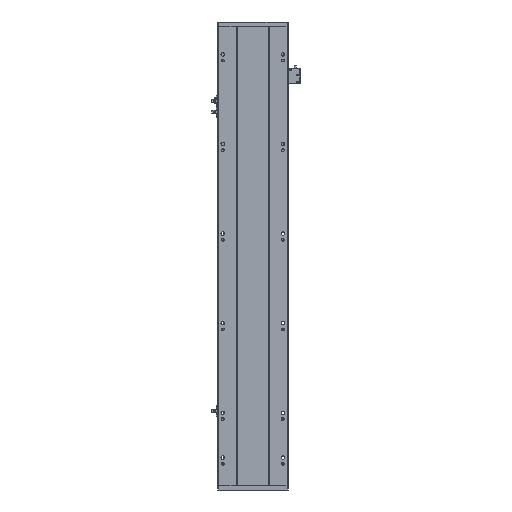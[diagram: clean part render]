
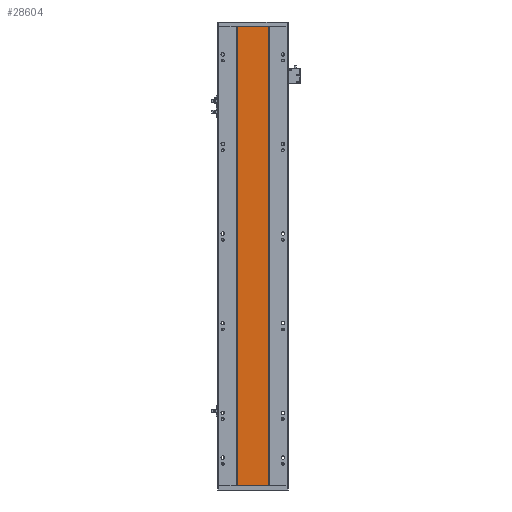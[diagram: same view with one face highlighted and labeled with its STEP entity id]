
A CAD part, front view. The second image highlights one B-rep face of the part: STEP entity #28604.
In plain terms, the highlighted planar face has unit normal (0, -1, 0).
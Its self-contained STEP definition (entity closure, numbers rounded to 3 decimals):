
#297 = EDGE_CURVE ( 'NONE', #13213, #25882, #15449, .T. ) ;
#402 = LINE ( 'NONE', #18996, #9841 ) ;
#708 = EDGE_CURVE ( 'NONE', #13213, #7889, #27706, .T. ) ;
#2570 = DIRECTION ( 'NONE',  ( 1., 0., 0. ) ) ;
#3968 = DIRECTION ( 'NONE',  ( 1., 0., 0. ) ) ;
#4006 = DIRECTION ( 'NONE',  ( 0., 0., -1. ) ) ;
#5356 = EDGE_CURVE ( 'NONE', #7889, #19510, #402, .T. ) ;
#5691 = CARTESIAN_POINT ( 'NONE',  ( 205.288, 16.9, 1108. ) ) ;
#6408 = ORIENTED_EDGE ( 'NONE', *, *, #15355, .T. ) ;
#7889 = VERTEX_POINT ( 'NONE', #5691 ) ;
#9047 = ORIENTED_EDGE ( 'NONE', *, *, #708, .F. ) ;
#9051 = FACE_OUTER_BOUND ( 'NONE', #16046, .T. ) ;
#9174 = VECTOR ( 'NONE', #3968, 1000. ) ;
#9841 = VECTOR ( 'NONE', #16455, 1000. ) ;
#11489 = VECTOR ( 'NONE', #2570, 1000. ) ;
#12784 = CARTESIAN_POINT ( 'NONE',  ( 205.288, 16.9, 0. ) ) ;
#13092 = VECTOR ( 'NONE', #4006, 1000. ) ;
#13213 = VERTEX_POINT ( 'NONE', #15219 ) ;
#13736 = PLANE ( 'NONE',  #20387 ) ;
#15219 = CARTESIAN_POINT ( 'NONE',  ( 129.288, 16.9, 1108. ) ) ;
#15355 = EDGE_CURVE ( 'NONE', #25882, #19510, #21321, .T. ) ;
#15449 = LINE ( 'NONE', #31631, #13092 ) ;
#15516 = ORIENTED_EDGE ( 'NONE', *, *, #297, .T. ) ;
#16046 = EDGE_LOOP ( 'NONE', ( #6408, #20794, #9047, #15516 ) ) ;
#16278 = CARTESIAN_POINT ( 'NONE',  ( 129.288, 16.9, 0. ) ) ;
#16455 = DIRECTION ( 'NONE',  ( 0., 0., -1. ) ) ;
#18996 = CARTESIAN_POINT ( 'NONE',  ( 205.288, 16.9, 1108. ) ) ;
#19510 = VERTEX_POINT ( 'NONE', #27295 ) ;
#20387 = AXIS2_PLACEMENT_3D ( 'NONE', #28795, #31128, #31350 ) ;
#20794 = ORIENTED_EDGE ( 'NONE', *, *, #5356, .F. ) ;
#21321 = LINE ( 'NONE', #12784, #11489 ) ;
#25882 = VERTEX_POINT ( 'NONE', #16278 ) ;
#27295 = CARTESIAN_POINT ( 'NONE',  ( 205.288, 16.9, 0. ) ) ;
#27706 = LINE ( 'NONE', #28823, #9174 ) ;
#28604 = ADVANCED_FACE ( 'NONE', ( #9051 ), #13736, .F. ) ;
#28795 = CARTESIAN_POINT ( 'NONE',  ( 205.288, 16.9, 1108. ) ) ;
#28823 = CARTESIAN_POINT ( 'NONE',  ( 129.288, 16.9, 1108. ) ) ;
#31128 = DIRECTION ( 'NONE',  ( 0., 1., 0. ) ) ;
#31350 = DIRECTION ( 'NONE',  ( -1., 0., 0. ) ) ;
#31631 = CARTESIAN_POINT ( 'NONE',  ( 129.288, 16.9, 1108. ) ) ;
